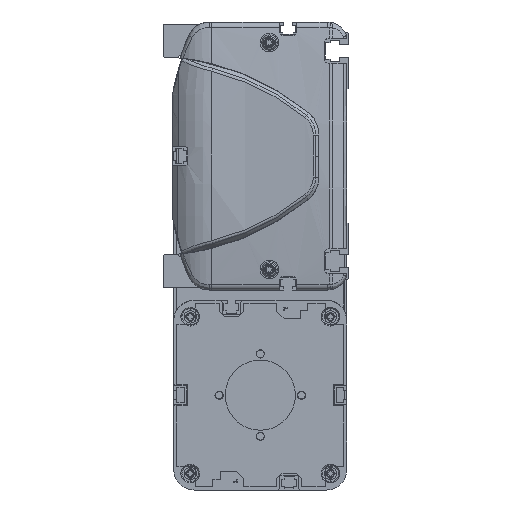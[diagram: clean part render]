
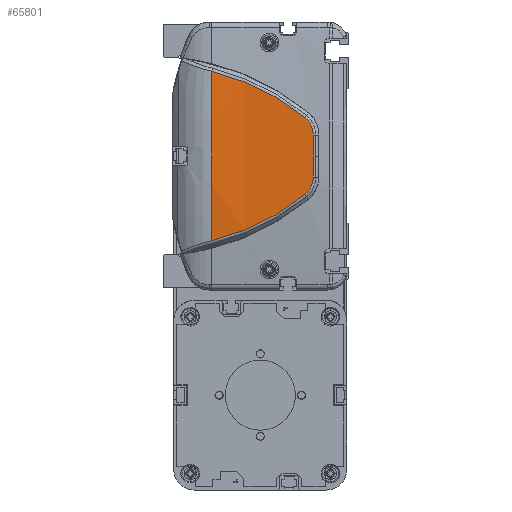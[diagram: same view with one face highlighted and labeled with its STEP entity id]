
A CAD part, left-side view. The second image highlights one B-rep face of the part: STEP entity #65801.
In plain terms, the highlighted cylindrical face has radius 500 mm (diameter 1000 mm), a partial arc.
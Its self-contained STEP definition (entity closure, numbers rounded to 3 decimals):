
#62050=CARTESIAN_POINT('',(-814.,66.962,0.));
#62051=DIRECTION('',(0.,-1.,0.));
#62052=DIRECTION('',(-0.997,0.,0.082));
#62053=AXIS2_PLACEMENT_3D('',#62050,#62051,#62052);
#62937=CARTESIAN_POINT('',(-1313.648,21.913,
-18.759));
#62938=CARTESIAN_POINT('',(-1313.449,28.504,
-24.058));
#62939=CARTESIAN_POINT('',(-1312.934,42.795,
-33.27));
#62940=CARTESIAN_POINT('',(-1312.471,58.756,
-39.127));
#62941=CARTESIAN_POINT('',(-1312.306,66.962,
-41.121));
#62943=CARTESIAN_POINT('',(-1312.306,66.962,
41.121));
#62944=CARTESIAN_POINT('',(-1312.471,58.756,
39.127));
#62945=CARTESIAN_POINT('',(-1312.934,42.795,
33.27));
#62946=CARTESIAN_POINT('',(-1313.449,28.504,
24.058));
#62947=CARTESIAN_POINT('',(-1313.648,21.913,
18.759));
#62949=CARTESIAN_POINT('',(-1313.648,21.913,
18.759));
#62950=CARTESIAN_POINT('',(-1313.686,20.635,
17.736));
#62951=CARTESIAN_POINT('',(-1313.779,18.536,
15.107));
#62952=CARTESIAN_POINT('',(-1313.863,17.752,
11.827));
#62953=CARTESIAN_POINT('',(-1313.896,17.724,
10.178));
#62955=CARTESIAN_POINT('',(-1313.896,17.724,
10.178));
#62956=CARTESIAN_POINT('',(-1313.92,17.707,
9.026));
#62957=CARTESIAN_POINT('',(-1313.959,17.667,
6.736));
#62958=CARTESIAN_POINT('',(-1313.993,17.58,
3.342));
#62959=CARTESIAN_POINT('',(-1314.,17.498,
1.109));
#62960=CARTESIAN_POINT('',(-1314.,17.449,
0.));
#62962=CARTESIAN_POINT('',(-1314.,17.449,
0.));
#62963=CARTESIAN_POINT('',(-1314.,17.498,
-1.109));
#62964=CARTESIAN_POINT('',(-1313.993,17.58,
-3.342));
#62965=CARTESIAN_POINT('',(-1313.959,17.667,
-6.735));
#62966=CARTESIAN_POINT('',(-1313.92,17.707,
-9.028));
#62967=CARTESIAN_POINT('',(-1313.896,17.724,
-10.18));
#62969=CARTESIAN_POINT('',(-1313.896,17.724,
-10.18));
#62970=CARTESIAN_POINT('',(-1313.863,17.752,
-11.828));
#62971=CARTESIAN_POINT('',(-1313.779,18.537,
-15.109));
#62972=CARTESIAN_POINT('',(-1313.686,20.635,
-17.736));
#62973=CARTESIAN_POINT('',(-1313.648,21.913,
-18.759));
#63623=VERTEX_POINT('',#62937);
#63624=VERTEX_POINT('',#62941);
#63625=CARTESIAN_POINT('',(-1312.306,66.962,
41.121));
#63626=VERTEX_POINT('',#63625);
#63627=VERTEX_POINT('',#62947);
#63628=VERTEX_POINT('',#62953);
#63629=VERTEX_POINT('',#62960);
#63630=VERTEX_POINT('',#62967);
#65782=CARTESIAN_POINT('',(-814.,8.606,0.));
#65783=DIRECTION('',(0.,1.,0.));
#65784=DIRECTION('',(1.,0.,0.));
#65785=AXIS2_PLACEMENT_3D('',#65782,#65783,#65784);
#65786=CYLINDRICAL_SURFACE('',#65785,500.);
#65788=ORIENTED_EDGE('',*,*,#65787,.T.);
#65789=ORIENTED_EDGE('',*,*,#64425,.F.);
#65791=ORIENTED_EDGE('',*,*,#65790,.T.);
#65793=ORIENTED_EDGE('',*,*,#65792,.T.);
#65795=ORIENTED_EDGE('',*,*,#65794,.T.);
#65797=ORIENTED_EDGE('',*,*,#65796,.T.);
#65798=ORIENTED_EDGE('',*,*,#65772,.T.);
#65799=EDGE_LOOP('',(#65788,#65789,#65791,#65793,#65795,#65797,#65798));
#65800=FACE_OUTER_BOUND('',#65799,.F.);
#65801=ADVANCED_FACE('',(#65800),#65786,.T.);
#62054=CIRCLE('',#62053,500.);
#62942=B_SPLINE_CURVE_WITH_KNOTS('',3,(#62937,#62938,#62939,#62940,#62941),
.UNSPECIFIED.,.F.,.F.,(4,1,4),(0.,0.5,1.),.UNSPECIFIED.);
#62948=B_SPLINE_CURVE_WITH_KNOTS('',3,(#62943,#62944,#62945,#62946,#62947),
.UNSPECIFIED.,.F.,.F.,(4,1,4),(0.,0.5,1.),.UNSPECIFIED.);
#62954=B_SPLINE_CURVE_WITH_KNOTS('',3,(#62949,#62950,#62951,#62952,#62953),
.UNSPECIFIED.,.F.,.F.,(4,1,4),(0.,0.5,1.),.UNSPECIFIED.);
#62961=B_SPLINE_CURVE_WITH_KNOTS('',3,(#62955,#62956,#62957,#62958,#62959,
#62960),.UNSPECIFIED.,.F.,.F.,(4,1,1,4),(0.,0.333,
0.667,1.),.UNSPECIFIED.);
#62968=B_SPLINE_CURVE_WITH_KNOTS('',3,(#62962,#62963,#62964,#62965,#62966,
#62967),.UNSPECIFIED.,.F.,.F.,(4,1,1,4),(0.,0.333,
0.667,1.),.UNSPECIFIED.);
#62974=B_SPLINE_CURVE_WITH_KNOTS('',3,(#62969,#62970,#62971,#62972,#62973),
.UNSPECIFIED.,.F.,.F.,(4,1,4),(0.,0.5,1.),.UNSPECIFIED.);
#64425=EDGE_CURVE('',#63626,#63624,#62054,.T.);
#65772=EDGE_CURVE('',#63630,#63623,#62974,.T.);
#65787=EDGE_CURVE('',#63623,#63624,#62942,.T.);
#65790=EDGE_CURVE('',#63626,#63627,#62948,.T.);
#65792=EDGE_CURVE('',#63627,#63628,#62954,.T.);
#65794=EDGE_CURVE('',#63628,#63629,#62961,.T.);
#65796=EDGE_CURVE('',#63629,#63630,#62968,.T.);
